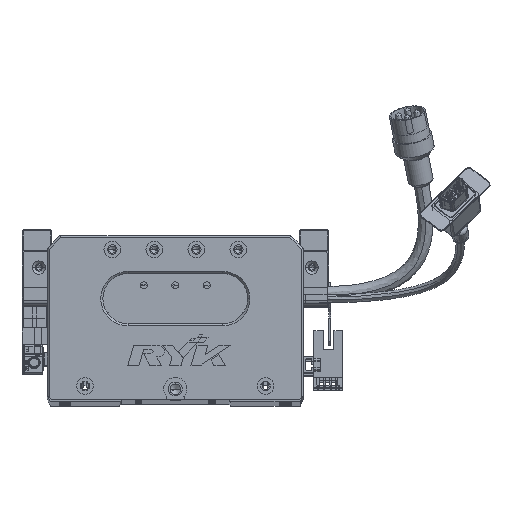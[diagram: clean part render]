
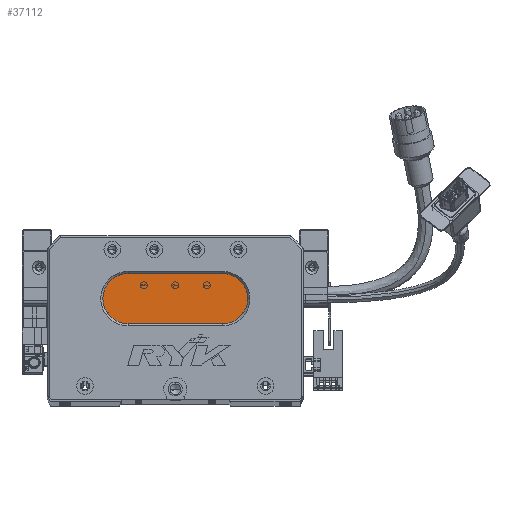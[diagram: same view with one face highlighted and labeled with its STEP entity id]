
A CAD part, top view. The second image highlights one B-rep face of the part: STEP entity #37112.
In plain terms, the highlighted planar face has unit normal (0, 0, 1) as drawn and (0, 0, -1) by its records, which use the part's own axes.
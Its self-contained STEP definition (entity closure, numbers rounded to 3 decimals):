
#2789 = DIRECTION ( 'NONE',  ( 0., 0., -1. ) ) ;
#5440 = VERTEX_POINT ( 'NONE', #44614 ) ;
#8208 = ORIENTED_EDGE ( 'NONE', *, *, #77310, .T. ) ;
#8924 = VERTEX_POINT ( 'NONE', #15413 ) ;
#10238 = AXIS2_PLACEMENT_3D ( 'NONE', #33395, #53795, #26313 ) ;
#12325 = CARTESIAN_POINT ( 'NONE',  ( 83.5, 60., 13. ) ) ;
#12489 = FACE_OUTER_BOUND ( 'NONE', #84900, .T. ) ;
#15413 = CARTESIAN_POINT ( 'NONE',  ( 26.5, 48., 13. ) ) ;
#18810 = DIRECTION ( 'NONE',  ( 1., 0., 0. ) ) ;
#19797 = EDGE_CURVE ( 'NONE', #23371, #24165, #66279, .T. ) ;
#21171 = DIRECTION ( 'NONE',  ( 0., 0., -1. ) ) ;
#23371 = VERTEX_POINT ( 'NONE', #37963 ) ;
#24165 = VERTEX_POINT ( 'NONE', #12325 ) ;
#25580 = EDGE_CURVE ( 'NONE', #5440, #8924, #70838, .T. ) ;
#25867 = CIRCLE ( 'NONE', #42517, 12. ) ;
#26313 = DIRECTION ( 'NONE',  ( -1., 0., 0. ) ) ;
#31503 = DIRECTION ( 'NONE',  ( -1., 0., 0. ) ) ;
#33395 = CARTESIAN_POINT ( 'NONE',  ( 38.5, 48., 13. ) ) ;
#37112 = ADVANCED_FACE ( 'NONE', ( #12489 ), #55334, .T. ) ;
#37963 = CARTESIAN_POINT ( 'NONE',  ( 38.5, 60., 13. ) ) ;
#38394 = AXIS2_PLACEMENT_3D ( 'NONE', #61026, #21171, #62170 ) ;
#38888 = ORIENTED_EDGE ( 'NONE', *, *, #85473, .T. ) ;
#39935 = CARTESIAN_POINT ( 'NONE',  ( 83.5, 48., 13. ) ) ;
#42517 = AXIS2_PLACEMENT_3D ( 'NONE', #43291, #2789, #68925 ) ;
#43291 = CARTESIAN_POINT ( 'NONE',  ( 83.5, 48., 13. ) ) ;
#44117 = LINE ( 'NONE', #57792, #85273 ) ;
#44614 = CARTESIAN_POINT ( 'NONE',  ( 38.5, 36., 13. ) ) ;
#52826 = CARTESIAN_POINT ( 'NONE',  ( 83.5, 36., 13. ) ) ;
#53795 = DIRECTION ( 'NONE',  ( 0., 0., -1. ) ) ;
#55334 = PLANE ( 'NONE',  #72902 ) ;
#57792 = CARTESIAN_POINT ( 'NONE',  ( 83.5, 36., 13. ) ) ;
#61026 = CARTESIAN_POINT ( 'NONE',  ( 38.5, 48., 13. ) ) ;
#62170 = DIRECTION ( 'NONE',  ( -1., 0., 0. ) ) ;
#62434 = ORIENTED_EDGE ( 'NONE', *, *, #86882, .T. ) ;
#64172 = VECTOR ( 'NONE', #18810, 1000. ) ;
#66279 = LINE ( 'NONE', #71981, #64172 ) ;
#66337 = VERTEX_POINT ( 'NONE', #52826 ) ;
#68925 = DIRECTION ( 'NONE',  ( -1., 0., 0. ) ) ;
#70838 = CIRCLE ( 'NONE', #38394, 12. ) ;
#71981 = CARTESIAN_POINT ( 'NONE',  ( 83.5, 60., 13. ) ) ;
#72902 = AXIS2_PLACEMENT_3D ( 'NONE', #39935, #82157, #87180 ) ;
#74227 = CIRCLE ( 'NONE', #10238, 12. ) ;
#76804 = ORIENTED_EDGE ( 'NONE', *, *, #19797, .T. ) ;
#77310 = EDGE_CURVE ( 'NONE', #8924, #23371, #74227, .T. ) ;
#80147 = ORIENTED_EDGE ( 'NONE', *, *, #25580, .T. ) ;
#82157 = DIRECTION ( 'NONE',  ( 0., 0., -1. ) ) ;
#84900 = EDGE_LOOP ( 'NONE', ( #38888, #62434, #80147, #8208, #76804 ) ) ;
#85273 = VECTOR ( 'NONE', #31503, 1000. ) ;
#85473 = EDGE_CURVE ( 'NONE', #24165, #66337, #25867, .T. ) ;
#86882 = EDGE_CURVE ( 'NONE', #66337, #5440, #44117, .T. ) ;
#87180 = DIRECTION ( 'NONE',  ( -1., 0., 0. ) ) ;
